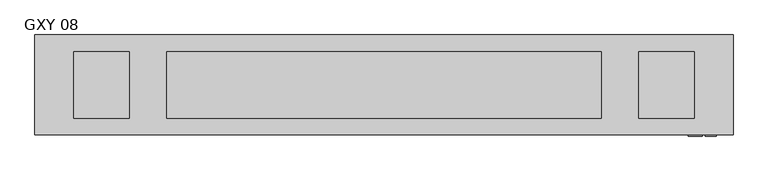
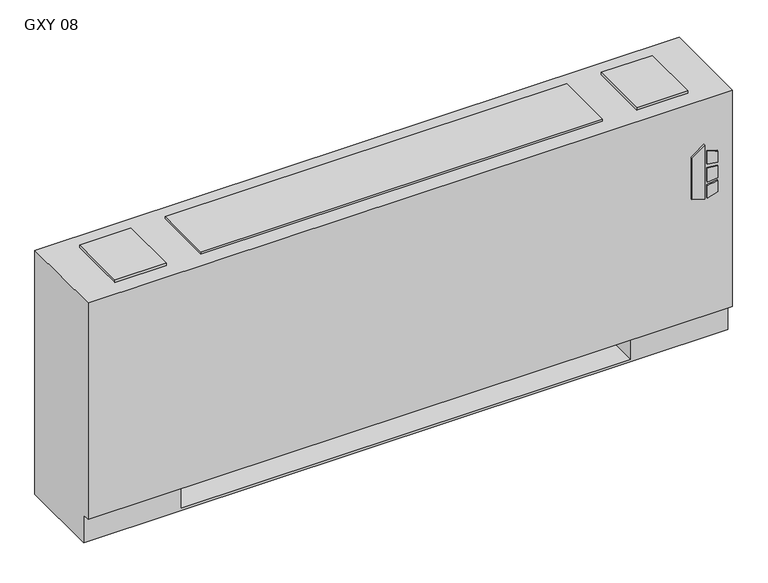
"""IFC4 building model written with IfcOpenShell, lengths in millimetres: proxy geometry, Vertical_Fan_Coil_Unit_-_GXY_-_IEC_-_2-Pipe_TS-FR_LH_2022 : GXY 08."""

from ifc_helpers import new_model, si_unit, point, frame, frame_2d, origin, place, context, project, spatial, polyline, circle_curve, trimmed, segment, composite_curve, outline, extrude, source, transform, mapped, element, save
from ifc_brep_helpers import plane_surface, revolved_surface, advanced_brep


def gxy_08_aae87ed6(model_context):
    return source(origin(), model_context, "Body", "SolidModel", [
        extrude(outline(polyline([(391.6086829, 849.3868862), (381.6606126, 881.5602728), (523.831537, 881.5602728), (500.8095309, 849.3868862), (391.6086829, 849.3868862)])), frame((0.0, 12.7, 0.0), z_axis=(0.0, 1.0, 0.0), x_axis=(0.0, 0.0, 1.0)), (0.0, 0.0, 1.0), 3.175),
        extrude(outline(polyline([(470.6079683, 888.3186058), (467.4055757, 914.4), (496.6344168, 914.4), (504.6988318, 888.3186058), (470.6079683, 888.3186058)])), frame((0.0, 12.7, 0.0), z_axis=(0.0, 1.0, 0.0), x_axis=(0.0, 0.0, 1.0)), (0.0, 0.0, 1.0), 3.175),
        extrude(outline(polyline([(418.7444414, 914.4), (415.0789404, 888.3186058), (381.6606126, 888.3186058), (390.2948498, 914.4), (418.7444414, 914.4)])), frame((0.0, 12.7, 0.0), z_axis=(0.0, 1.0, 0.0), x_axis=(0.0, 0.0, 1.0)), (0.0, 0.0, 1.0), 3.175),
        extrude(outline(polyline([(458.0596028, 914.4), (460.3414292, 888.3186058), (424.4038806, 888.3186058), (427.1451456, 914.4), (458.0596028, 914.4)])), frame((0.0, 12.7, 0.0), z_axis=(0.0, 1.0, 0.0), x_axis=(0.0, 0.0, 1.0)), (0.0, 0.0, 1.0), 3.175),
        extrude(outline(polyline([(711.2, 81.534), (711.2, 223.266), (831.85, 223.266), (831.85, 81.534), (711.2, 81.534)])), frame((0.0, 0.0, 327.025), z_axis=(0.0, 0.0, 1.0), x_axis=(1.0, 0.0, 0.0)), (0.0, 0.0, 1.0), 260.35),
        extrude(outline(polyline([(-431.8, 206.375), (-431.8, 53.975), (-558.8, 53.975), (-558.8, 206.375), (-431.8, 206.375)])), frame((0.0, 0.0, 641.35), z_axis=(0.0, 0.0, 1.0), x_axis=(1.0, 0.0, 0.0)), (0.0, 0.0, 1.0), 6.35),
        extrude(outline(polyline([(863.6, 206.375), (863.6, 53.975), (736.6, 53.975), (736.6, 206.375), (863.6, 206.375)])), frame((0.0, 0.0, 641.35), z_axis=(0.0, 0.0, 1.0), x_axis=(1.0, 0.0, 0.0)), (0.0, 0.0, 1.0), 6.35),
        extrude(outline(composite_curve([segment(trimmed(circle_curve(frame_2d((78.9432, 398.5514)), 7.9375), [point((78.9432, 406.4889))], [point((78.9432, 390.6139))], False, "CARTESIAN"), True, "CONTINUOUS"), segment(trimmed(circle_curve(frame_2d((78.9432, 398.5514)), 7.9375), [point((78.9432, 390.6139))], [point((78.9432, 406.4889))], False, "CARTESIAN"), True, "CONTINUOUS")], self_intersect=False)), frame((-457.2, 0.0, 0.0), z_axis=(1.0, 0.0, 0.0), x_axis=(0.0, 1.0, 0.0)), (0.0, 0.0, 1.0), 50.8),
        extrude(outline(composite_curve([segment(trimmed(circle_curve(frame_2d((155.9052, 537.3878)), 7.9375), [point((155.9052, 545.3253))], [point((155.9052, 529.4503))], False, "CARTESIAN"), True, "CONTINUOUS"), segment(trimmed(circle_curve(frame_2d((155.9052, 537.3878)), 7.9375), [point((155.9052, 529.4503))], [point((155.9052, 545.3253))], False, "CARTESIAN"), True, "CONTINUOUS")], self_intersect=False)), frame((-457.2, 0.0, 0.0), z_axis=(1.0, 0.0, 0.0), x_axis=(0.0, 1.0, 0.0)), (0.0, 0.0, 1.0), 50.8),
        advanced_brep(
        [(952.5, 244.475, 641.35), (-647.7, 244.475, 641.35), (-647.7, 15.875, 641.35), (952.5, 15.875, 641.35), (-647.7, 244.475, 0.0), (952.5, 244.475, 0.0), (952.5, 34.925, 0.0), (-647.7, 34.925, 0.0), (711.2, 244.475, 73.025), (939.8, 244.475, 73.025), (939.8, 244.475, 628.65), (711.2, 244.475, 628.65), (711.2, 244.475, 418.0400565), (739.775, 244.475, 418.0400565), (739.775, 244.475, 388.4099435), (711.2, 244.475, 388.4099435), (711.2, 244.475, 290.5125), (739.775, 244.475, 290.5125), (739.775, 244.475, 261.9375), (711.2, 244.475, 261.9375), (711.2, 244.475, 119.0625), (739.775, 244.475, 119.0625), (739.775, 244.475, 90.4875), (711.2, 244.475, 90.4875), (-406.4, 244.475, 628.65), (-635.0, 244.475, 628.65), (-635.0, 244.475, 73.025), (-406.4, 244.475, 73.025), (-406.4, 244.475, 90.4875), (-434.975, 244.475, 90.4875), (-434.975, 244.475, 119.0625), (-406.4, 244.475, 119.0625), (-406.4, 244.475, 261.9375), (-434.975, 244.475, 261.9375), (-434.975, 244.475, 290.5125), (-406.4, 244.475, 290.5125), (-406.4, 244.475, 388.4099435), (-434.975, 244.475, 388.4099435), (-434.975, 244.475, 418.0400565), (-406.4, 244.475, 418.0400565), (729.4626, 244.475, 104.775), (718.3374, 244.475, 104.775), (729.4626, 244.475, 403.225), (718.3374, 244.475, 403.225), (729.4626, 244.475, 276.225), (718.3374, 244.475, 276.225), (-413.5374, 244.475, 104.775), (-424.6626, 244.475, 104.775), (-413.5374, 244.475, 276.225), (-424.6626, 244.475, 276.225), (-413.5374, 244.475, 403.225), (-424.6626, 244.475, 403.225), (-647.7, 34.925, 73.025), (-647.7, 15.875, 73.025), (952.5, 15.875, 73.025), (952.5, 34.925, 73.025), (-406.4, 34.925, 73.025), (-406.4, 219.075, 73.025), (711.2, 219.075, 73.025), (711.2, 34.925, 73.025), (711.2, 34.925, 6.35), (-406.4, 34.925, 6.35), (711.2, 41.275, 628.65), (939.8, 41.275, 628.65), (939.8, 41.275, 73.025), (711.2, 41.275, 73.025), (-406.4, 41.275, 628.65), (-406.4, 41.275, 73.025), (-635.0, 41.275, 73.025), (-635.0, 41.275, 628.65), (711.2, 219.075, 73.025), (711.2, 238.125, 90.4875), (711.2, 238.125, 119.0625), (711.2, 238.125, 261.9375), (711.2, 238.125, 290.5125), (711.2, 238.125, 388.4099435), (711.2, 238.125, 418.0400565), (-406.4, 219.075, 73.025), (-406.4, 238.125, 418.0400565), (-406.4, 238.125, 388.4099435), (-406.4, 238.125, 290.5125), (-406.4, 238.125, 261.9375), (-406.4, 238.125, 119.0625), (-406.4, 238.125, 90.4875), (-406.4, 219.075, 6.35), (711.2, 219.075, 6.35), (739.775, 238.125, 90.4875), (739.775, 238.125, 119.0625), (718.3374, 238.125, 104.775), (729.4626, 238.125, 104.775), (739.775, 238.125, 261.9375), (739.775, 238.125, 290.5125), (718.3374, 238.125, 276.225), (729.4626, 238.125, 276.225), (739.775, 238.125, 388.4099435), (739.775, 238.125, 418.0400565), (718.3374, 238.125, 403.225), (729.4626, 238.125, 403.225), (-434.975, 238.125, 119.0625), (-434.975, 238.125, 90.4875), (-424.6626, 238.125, 104.775), (-413.5374, 238.125, 104.775), (-434.975, 238.125, 290.5125), (-434.975, 238.125, 261.9375), (-424.6626, 238.125, 276.225), (-413.5374, 238.125, 276.225), (-434.975, 238.125, 418.0400565), (-434.975, 238.125, 388.4099435), (-424.6626, 238.125, 403.225), (-413.5374, 238.125, 403.225)],
        [
            (0, 1),
            (1, 2),
            (2, 3),
            (3, 0),
            (4, 5),
            (5, 6),
            (6, 7),
            (7, 4),
            (0, 5),
            (4, 1),
            (8, 9),
            (9, 10),
            (10, 11),
            (11, 12),
            (12, 13),
            (13, 14),
            (14, 15),
            (15, 16),
            (16, 17),
            (17, 18),
            (18, 19),
            (19, 20),
            (20, 21),
            (21, 22),
            (22, 23),
            (23, 8),
            (24, 25),
            (25, 26),
            (26, 27),
            (27, 28),
            (28, 29),
            (29, 30),
            (30, 31),
            (31, 32),
            (32, 33),
            (33, 34),
            (34, 35),
            (35, 36),
            (36, 37),
            (37, 38),
            (38, 39),
            (39, 24),
            (40, 41, circle_curve(frame((723.9, 244.475, 104.775), z_axis=(0.0, -1.0, 0.0), x_axis=(-1.0, 0.0, 0.0)), 5.5626)),
            (41, 40, circle_curve(frame((723.9, 244.475, 104.775), z_axis=(0.0, -1.0, 0.0), x_axis=(-1.0, 0.0, 0.0)), 5.5626)),
            (42, 43, circle_curve(frame((723.9, 244.475, 403.225), z_axis=(0.0, -1.0, 0.0), x_axis=(-1.0, 0.0, 0.0)), 5.5626)),
            (43, 42, circle_curve(frame((723.9, 244.475, 403.225), z_axis=(0.0, -1.0, 0.0), x_axis=(-1.0, 0.0, 0.0)), 5.5626)),
            (44, 45, circle_curve(frame((723.9, 244.475, 276.225), z_axis=(0.0, -1.0, 0.0), x_axis=(-1.0, 0.0, 0.0)), 5.5626)),
            (45, 44, circle_curve(frame((723.9, 244.475, 276.225), z_axis=(0.0, -1.0, 0.0), x_axis=(-1.0, 0.0, 0.0)), 5.5626)),
            (46, 47, circle_curve(frame((-419.1, 244.475, 104.775), z_axis=(0.0, -1.0, 0.0), x_axis=(-1.0, 0.0, 0.0)), 5.5626)),
            (47, 46, circle_curve(frame((-419.1, 244.475, 104.775), z_axis=(0.0, -1.0, 0.0), x_axis=(-1.0, 0.0, 0.0)), 5.5626)),
            (48, 49, circle_curve(frame((-419.1, 244.475, 276.225), z_axis=(0.0, -1.0, 0.0), x_axis=(-1.0, 0.0, 0.0)), 5.5626)),
            (49, 48, circle_curve(frame((-419.1, 244.475, 276.225), z_axis=(0.0, -1.0, 0.0), x_axis=(-1.0, 0.0, 0.0)), 5.5626)),
            (50, 51, circle_curve(frame((-419.1, 244.475, 403.225), z_axis=(0.0, -1.0, 0.0), x_axis=(-1.0, 0.0, 0.0)), 5.5626)),
            (51, 50, circle_curve(frame((-419.1, 244.475, 403.225), z_axis=(0.0, -1.0, 0.0), x_axis=(-1.0, 0.0, 0.0)), 5.5626)),
            (7, 52),
            (52, 53),
            (53, 2),
            (53, 54),
            (54, 3),
            (54, 55),
            (55, 6),
            (52, 56),
            (56, 57),
            (57, 58),
            (58, 59),
            (59, 55),
            (59, 60),
            (60, 61),
            (61, 56),
            (62, 63),
            (63, 64),
            (64, 65),
            (65, 62),
            (66, 67),
            (67, 68),
            (68, 69),
            (69, 66),
            (65, 70),
            (70, 8),
            (23, 71),
            (71, 72),
            (72, 20),
            (19, 73),
            (73, 74),
            (74, 16),
            (15, 75),
            (75, 76),
            (76, 12),
            (11, 62),
            (64, 9),
            (63, 10),
            (69, 25),
            (24, 66),
            (68, 26),
            (67, 77),
            (77, 27),
            (39, 78),
            (78, 79),
            (79, 36),
            (35, 80),
            (80, 81),
            (81, 32),
            (31, 82),
            (82, 83),
            (83, 28),
            (57, 84),
            (84, 85),
            (85, 58),
            (85, 60),
            (84, 61),
            (71, 86),
            (86, 87),
            (87, 72),
            (88, 89, circle_curve(frame((723.9, 238.125, 104.775), z_axis=(0.0, 1.0, 0.0), x_axis=(-1.0, 0.0, 0.0)), 5.5626)),
            (89, 88, circle_curve(frame((723.9, 238.125, 104.775), z_axis=(0.0, 1.0, 0.0), x_axis=(-1.0, 0.0, 0.0)), 5.5626)),
            (73, 90),
            (90, 91),
            (91, 74),
            (92, 93, circle_curve(frame((723.9, 238.125, 276.225), z_axis=(0.0, 1.0, 0.0), x_axis=(-1.0, 0.0, 0.0)), 5.5626)),
            (93, 92, circle_curve(frame((723.9, 238.125, 276.225), z_axis=(0.0, 1.0, 0.0), x_axis=(-1.0, 0.0, 0.0)), 5.5626)),
            (75, 94),
            (94, 95),
            (95, 76),
            (96, 97, circle_curve(frame((723.9, 238.125, 403.225), z_axis=(0.0, 1.0, 0.0), x_axis=(-1.0, 0.0, 0.0)), 5.5626)),
            (97, 96, circle_curve(frame((723.9, 238.125, 403.225), z_axis=(0.0, 1.0, 0.0), x_axis=(-1.0, 0.0, 0.0)), 5.5626)),
            (98, 99),
            (99, 83),
            (82, 98),
            (100, 101, circle_curve(frame((-419.1, 238.125, 104.775), z_axis=(0.0, 1.0, 0.0), x_axis=(-1.0, 0.0, 0.0)), 5.5626)),
            (101, 100, circle_curve(frame((-419.1, 238.125, 104.775), z_axis=(0.0, 1.0, 0.0), x_axis=(-1.0, 0.0, 0.0)), 5.5626)),
            (102, 103),
            (103, 81),
            (80, 102),
            (104, 105, circle_curve(frame((-419.1, 238.125, 276.225), z_axis=(0.0, 1.0, 0.0), x_axis=(-1.0, 0.0, 0.0)), 5.5626)),
            (105, 104, circle_curve(frame((-419.1, 238.125, 276.225), z_axis=(0.0, 1.0, 0.0), x_axis=(-1.0, 0.0, 0.0)), 5.5626)),
            (106, 107),
            (107, 79),
            (78, 106),
            (108, 109, circle_curve(frame((-419.1, 238.125, 403.225), z_axis=(0.0, 1.0, 0.0), x_axis=(-1.0, 0.0, 0.0)), 5.5626)),
            (109, 108, circle_curve(frame((-419.1, 238.125, 403.225), z_axis=(0.0, 1.0, 0.0), x_axis=(-1.0, 0.0, 0.0)), 5.5626)),
            (87, 21),
            (86, 22),
            (91, 17),
            (90, 18),
            (95, 13),
            (94, 14),
            (30, 98),
            (99, 29),
            (34, 102),
            (103, 33),
            (38, 106),
            (107, 37),
            (88, 41),
            (40, 89),
            (96, 43),
            (42, 97),
            (92, 45),
            (44, 93),
            (100, 47),
            (46, 101),
            (104, 49),
            (48, 105),
            (108, 51),
            (50, 109),
        ],
        [
            plane_surface(frame((-647.7, 244.475, 641.35), z_axis=(0.0, 0.0, 1.0), x_axis=(-1.0, 0.0, 0.0))),
            plane_surface(frame((-647.7, 244.475, 0.0), z_axis=(0.0, 0.0, -1.0), x_axis=(1.0, 0.0, 0.0))),
            plane_surface(frame((952.5, 244.475, 641.35), z_axis=(0.0, 1.0, 0.0), x_axis=(0.0, 0.0, -1.0))),
            plane_surface(frame((-647.7, 244.475, 641.35), z_axis=(-1.0, 0.0, 0.0), x_axis=(0.0, 0.0, -1.0))),
            plane_surface(frame((-647.7, 15.875, 641.35), z_axis=(0.0, -1.0, 0.0), x_axis=(0.0, 0.0, -1.0))),
            plane_surface(frame((952.5, 15.875, 641.35), z_axis=(1.0, 0.0, 0.0), x_axis=(0.0, 0.0, -1.0))),
            plane_surface(frame((-647.7, 15.875, 73.025), z_axis=(0.0, 0.0, -1.0), x_axis=(1.0, 0.0, 0.0))),
            plane_surface(frame((-647.7, 34.925, 73.025), z_axis=(0.0, -1.0, 0.0), x_axis=(1.0, 0.0, 0.0))),
            plane_surface(frame((711.2, 41.275, 628.65), z_axis=(0.0, 1.0, 0.0), x_axis=(0.0, 0.0, -1.0))),
            plane_surface(frame((711.2, 41.275, 628.65), z_axis=(1.0, 0.0, 0.0), x_axis=(0.0, 1.0, 0.0))),
            plane_surface(frame((711.2, 41.275, 73.025), z_axis=(0.0, 0.0, 1.0), x_axis=(0.0, 1.0, 0.0))),
            plane_surface(frame((939.8, 41.275, 73.025), z_axis=(-1.0, 0.0, 0.0), x_axis=(0.0, 1.0, 0.0))),
            plane_surface(frame((939.8, 41.275, 628.65), z_axis=(0.0, 0.0, -1.0), x_axis=(0.0, 1.0, 0.0))),
            plane_surface(frame((-406.4, 41.275, 628.65), z_axis=(0.0, 0.0, -1.0), x_axis=(0.0, 1.0, 0.0))),
            plane_surface(frame((-635.0, 41.275, 628.65), z_axis=(1.0, 0.0, 0.0), x_axis=(0.0, 1.0, 0.0))),
            plane_surface(frame((-635.0, 41.275, 73.025), z_axis=(0.0, 0.0, 1.0), x_axis=(0.0, 1.0, 0.0))),
            plane_surface(frame((-406.4, 41.275, 73.025), z_axis=(-1.0, 0.0, 0.0), x_axis=(0.0, 1.0, 0.0))),
            plane_surface(frame((711.2, 219.075, 73.025), z_axis=(0.0, -1.0, 0.0), x_axis=(0.0, 0.0, -1.0))),
            plane_surface(frame((711.2, 219.075, 73.025), z_axis=(-1.0, 0.0, 0.0), x_axis=(0.0, -1.0, 0.0))),
            plane_surface(frame((711.2, 219.075, 6.35), z_axis=(0.0, 0.0, 1.0), x_axis=(0.0, -1.0, 0.0))),
            plane_surface(frame((-406.4, 219.075, 6.35), z_axis=(1.0, 0.0, 0.0), x_axis=(0.0, -1.0, 0.0))),
            plane_surface(frame((739.775, 238.125, 119.0625), z_axis=(0.0, -1.0, 0.0), x_axis=(-1.0, 0.0, 0.0))),
            plane_surface(frame((711.2, 244.475, 119.0625), z_axis=(0.0, 0.0, 1.0), x_axis=(0.0, -1.0, 0.0))),
            plane_surface(frame((739.775, 244.475, 119.0625), z_axis=(1.0, 0.0, 0.0), x_axis=(0.0, -1.0, 0.0))),
            plane_surface(frame((739.775, 244.475, 90.4875), z_axis=(0.0, 0.0, -1.0), x_axis=(0.0, -1.0, 0.0))),
            plane_surface(frame((711.2, 244.475, 290.5125), z_axis=(0.0, 0.0, 1.0), x_axis=(0.0, -1.0, 0.0))),
            plane_surface(frame((739.775, 244.475, 290.5125), z_axis=(1.0, 0.0, 0.0), x_axis=(0.0, -1.0, 0.0))),
            plane_surface(frame((739.775, 244.475, 261.9375), z_axis=(0.0, 0.0, -1.0), x_axis=(0.0, -1.0, 0.0))),
            plane_surface(frame((711.2, 244.475, 418.0400565), z_axis=(0.0, 0.0, 1.0), x_axis=(0.0, -1.0, 0.0))),
            plane_surface(frame((739.775, 244.475, 418.0400565), z_axis=(1.0, 0.0, 0.0), x_axis=(0.0, -1.0, 0.0))),
            plane_surface(frame((739.775, 244.475, 388.4099435), z_axis=(0.0, 0.0, -1.0), x_axis=(0.0, -1.0, 0.0))),
            plane_surface(frame((-434.975, 244.475, 119.0625), z_axis=(0.0, 0.0, 1.0), x_axis=(0.0, -1.0, 0.0))),
            plane_surface(frame((-406.4, 244.475, 90.4875), z_axis=(0.0, 0.0, -1.0), x_axis=(0.0, -1.0, 0.0))),
            plane_surface(frame((-434.975, 244.475, 90.4875), z_axis=(-1.0, 0.0, 0.0), x_axis=(0.0, -1.0, 0.0))),
            plane_surface(frame((-434.975, 244.475, 290.5125), z_axis=(0.0, 0.0, 1.0), x_axis=(0.0, -1.0, 0.0))),
            plane_surface(frame((-406.4, 244.475, 261.9375), z_axis=(0.0, 0.0, -1.0), x_axis=(0.0, -1.0, 0.0))),
            plane_surface(frame((-434.975, 244.475, 261.9375), z_axis=(-1.0, 0.0, 0.0), x_axis=(0.0, -1.0, 0.0))),
            plane_surface(frame((-434.975, 244.475, 418.0400565), z_axis=(0.0, 0.0, 1.0), x_axis=(0.0, -1.0, 0.0))),
            plane_surface(frame((-406.4, 244.475, 388.4099435), z_axis=(0.0, 0.0, -1.0), x_axis=(0.0, -1.0, 0.0))),
            plane_surface(frame((-434.975, 244.475, 388.4099435), z_axis=(-1.0, 0.0, 0.0), x_axis=(0.0, -1.0, 0.0))),
            revolved_surface(polyline([(718.3374, 238.125, 104.775), (718.3374, 244.475, 104.775)]), (723.9, 244.475, 104.775), (0.0, -1.0, 0.0)),
            revolved_surface(polyline([(718.3374, 238.125, 403.225), (718.3374, 244.475, 403.225)]), (723.9, 244.475, 403.225), (0.0, -1.0, 0.0)),
            revolved_surface(polyline([(718.3374, 238.125, 276.225), (718.3374, 244.475, 276.225)]), (723.9, 244.475, 276.225), (0.0, -1.0, 0.0)),
            revolved_surface(polyline([(-424.6626, 238.125, 104.775), (-424.6626, 244.475, 104.775)]), (-419.1, 244.475, 104.775), (0.0, -1.0, 0.0)),
            revolved_surface(polyline([(-424.6626, 238.125, 276.225), (-424.6626, 244.475, 276.225)]), (-419.1, 244.475, 276.225), (0.0, -1.0, 0.0)),
            revolved_surface(polyline([(-424.6626, 238.125, 403.225), (-424.6626, 244.475, 403.225)]), (-419.1, 244.475, 403.225), (0.0, -1.0, 0.0)),
        ],
        [
            (0, [[1, 2, 3, 4]]),
            (1, [[5, 6, 7, 8]]),
            (2, [[-1, 9, -5, 10], [11, 12, 13, 14, 15, 16, 17, 18, 19, 20, 21, 22, 23, 24, 25, 26], [27, 28, 29, 30, 31, 32, 33, 34, 35, 36, 37, 38, 39, 40, 41, 42], [43, 44], [45, 46], [47, 48], [49, 50], [51, 52], [53, 54]]),
            (3, [[-2, -10, -8, 55, 56, 57]]),
            (4, [[-3, -57, 58, 59]]),
            (5, [[-4, -59, 60, 61, -6, -9]]),
            (6, [[-56, 62, 63, 64, 65, 66, -60, -58]]),
            (7, [[-7, -61, -66, 67, 68, 69, -62, -55]]),
            (8, [[70, 71, 72, 73]]),
            (8, [[74, 75, 76, 77]]),
            (9, [[-73, 78, 79, -26, 80, 81, 82, -22, 83, 84, 85, -18, 86, 87, 88, -14, 89]]),
            (10, [[-72, 90, -11, -79, -78]]),
            (11, [[-71, 91, -12, -90]]),
            (12, [[-70, -89, -13, -91]]),
            (13, [[-77, 92, -27, 93]]),
            (14, [[-76, 94, -28, -92]]),
            (15, [[-75, 95, 96, -29, -94]]),
            (16, [[-74, -93, -42, 97, 98, 99, -38, 100, 101, 102, -34, 103, 104, 105, -30, -96, -95]]),
            (17, [[-64, 106, 107, 108]]),
            (18, [[-108, 109, -67, -65]]),
            (19, [[-107, 110, -68, -109]]),
            (20, [[-106, -63, -69, -110]]),
            (21, [[111, 112, 113, -81], [114, 115]]),
            (21, [[116, 117, 118, -84], [119, 120]]),
            (21, [[121, 122, 123, -87], [124, 125]]),
            (21, [[126, 127, -104, 128], [129, 130]]),
            (21, [[131, 132, -101, 133], [134, 135]]),
            (21, [[136, 137, -98, 138], [139, 140]]),
            (22, [[-113, 141, -23, -82]]),
            (23, [[-112, 142, -24, -141]]),
            (24, [[-111, -80, -25, -142]]),
            (25, [[-118, 143, -19, -85]]),
            (26, [[-117, 144, -20, -143]]),
            (27, [[-116, -83, -21, -144]]),
            (28, [[-123, 145, -15, -88]]),
            (29, [[-122, 146, -16, -145]]),
            (30, [[-121, -86, -17, -146]]),
            (31, [[-128, -103, -33, 147]]),
            (32, [[-127, 148, -31, -105]]),
            (33, [[-126, -147, -32, -148]]),
            (34, [[-133, -100, -37, 149]]),
            (35, [[-132, 150, -35, -102]]),
            (36, [[-131, -149, -36, -150]]),
            (37, [[-138, -97, -41, 151]]),
            (38, [[-137, 152, -39, -99]]),
            (39, [[-136, -151, -40, -152]]),
            (40, [[153, -43, 154, -114]]),
            (40, [[-153, -115, -154, -44]]),
            (41, [[155, -45, 156, -124]]),
            (41, [[-155, -125, -156, -46]]),
            (42, [[157, -47, 158, -119]]),
            (42, [[-157, -120, -158, -48]]),
            (43, [[159, -49, 160, -129]]),
            (43, [[-159, -130, -160, -50]]),
            (44, [[161, -51, 162, -134]]),
            (44, [[-161, -135, -162, -52]]),
            (45, [[163, -53, 164, -139]]),
            (45, [[-163, -140, -164, -54]]),
        ],
    ),
        extrude(outline(polyline([(650.875, 206.375), (650.875, 53.975), (-346.075, 53.975), (-346.075, 206.375), (650.875, 206.375)])), frame((0.0, 0.0, 641.35), z_axis=(0.0, 0.0, 1.0), x_axis=(1.0, 0.0, 0.0)), (0.0, 0.0, 1.0), 6.35),
    ])


if __name__ == "__main__":
    model = new_model("IFC4")
    model_context = context("Model", 3, world=origin())
    ifc_project = project(units=[si_unit("LENGTHUNIT", "METRE", prefix="MILLI")], contexts=[model_context])
    site = spatial("IfcSite", under=ifc_project)
    building = spatial("IfcBuilding", under=site)
    placement = place(None, origin())
    gxy_08_shape = gxy_08_aae87ed6(model_context)
    element("IfcBuildingElementProxy", 1, Name="Vertical_Fan_Coil_Unit_-_GXY_-_IEC_-_2-Pipe_TS-FR_LH_2022 : GXY 08", ObjectType="Vertical_Fan_Coil_Unit_-_GXY_-_IEC_-_2-Pipe_TS-FR_LH_2022 : GXY 08", at=placement, inside=building, context=model_context, shape_type="MappedRepresentation", body=[
        mapped(gxy_08_shape, transform((0.0, 0.0, 0.0), x_axis=(1.0, 0.0, 0.0), y_axis=(0.0, 1.0, 0.0), z_axis=(0.0, 0.0, 1.0))),
    ])
    save(model, "model.ifc")
